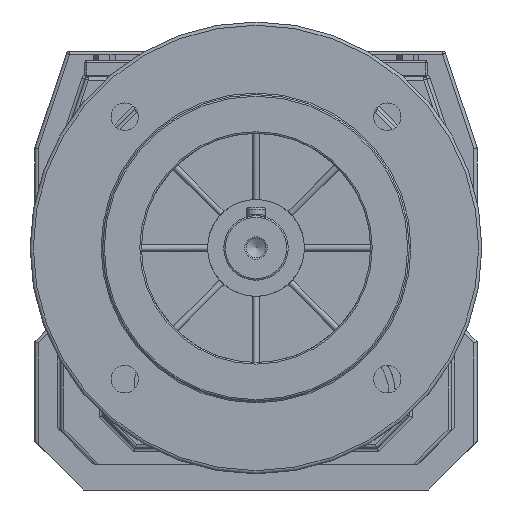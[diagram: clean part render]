
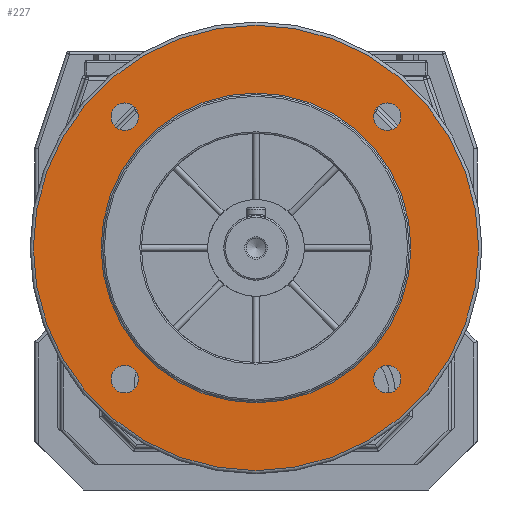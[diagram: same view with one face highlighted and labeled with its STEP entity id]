
A CAD part, front view. The second image highlights one B-rep face of the part: STEP entity #227.
In plain terms, the highlighted planar face has unit normal (0, -1, 0).
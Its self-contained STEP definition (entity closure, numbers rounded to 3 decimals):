
#132=CARTESIAN_POINT('',(0.,-73.,123.0));
#133=VERTEX_POINT('',#132);
#134=CARTESIAN_POINT('',(0.0,-73.,75.0));
#135=DIRECTION('',(0.0,-1.0,0.0));
#136=DIRECTION('',(0.0,0.0,-1.0));
#137=AXIS2_PLACEMENT_3D('',#134,#135,#136);
#138=CIRCLE('',#137,48.0);
#139=EDGE_CURVE('',#133,#133,#138,.T.);
#164=CARTESIAN_POINT('',(0.0,-73.,133.75));
#165=DIRECTION('',(0.0,-1.0,0.0));
#166=DIRECTION('',(0.0,0.0,-1.0));
#167=AXIS2_PLACEMENT_3D('',#164,#165,#166);
#168=PLANE('',#167);
#169=CARTESIAN_POINT('',(0.0,-73.,144.0));
#170=VERTEX_POINT('',#169);
#171=CARTESIAN_POINT('',(0.0,-73.,75.0));
#172=DIRECTION('',(0.0,1.0,0.0));
#173=DIRECTION('',(0.0,0.0,-1.0));
#174=AXIS2_PLACEMENT_3D('',#171,#172,#173);
#175=CIRCLE('',#174,69.0);
#176=EDGE_CURVE('',#170,#170,#175,.T.);
#177=ORIENTED_EDGE('',*,*,#176,.F.);
#178=EDGE_LOOP('',(#177));
#179=FACE_OUTER_BOUND('',#178,.T.);
#180=CARTESIAN_POINT('',(44.909,-73.,115.659));
#181=VERTEX_POINT('',#180);
#182=CARTESIAN_POINT('',(40.659,-73.,115.659));
#183=DIRECTION('',(0.0,1.0,0.0));
#184=DIRECTION('',(1.0,0.0,0.0));
#185=AXIS2_PLACEMENT_3D('',#182,#183,#184);
#186=CIRCLE('',#185,4.25);
#187=EDGE_CURVE('',#181,#181,#186,.T.);
#188=ORIENTED_EDGE('',*,*,#187,.T.);
#189=EDGE_LOOP('',(#188));
#190=FACE_BOUND('',#189,.T.);
#191=CARTESIAN_POINT('',(44.909,-73.,34.341));
#192=VERTEX_POINT('',#191);
#193=CARTESIAN_POINT('',(40.659,-73.,34.341));
#194=DIRECTION('',(0.0,1.0,0.0));
#195=DIRECTION('',(1.0,0.0,0.0));
#196=AXIS2_PLACEMENT_3D('',#193,#194,#195);
#197=CIRCLE('',#196,4.25);
#198=EDGE_CURVE('',#192,#192,#197,.T.);
#199=ORIENTED_EDGE('',*,*,#198,.T.);
#200=EDGE_LOOP('',(#199));
#201=FACE_BOUND('',#200,.T.);
#202=CARTESIAN_POINT('',(-36.409,-73.,34.341));
#203=VERTEX_POINT('',#202);
#204=CARTESIAN_POINT('',(-40.659,-73.,34.341));
#205=DIRECTION('',(0.0,1.0,0.0));
#206=DIRECTION('',(1.0,0.0,0.0));
#207=AXIS2_PLACEMENT_3D('',#204,#205,#206);
#208=CIRCLE('',#207,4.25);
#209=EDGE_CURVE('',#203,#203,#208,.T.);
#210=ORIENTED_EDGE('',*,*,#209,.T.);
#211=EDGE_LOOP('',(#210));
#212=FACE_BOUND('',#211,.T.);
#213=CARTESIAN_POINT('',(-36.409,-73.,115.659));
#214=VERTEX_POINT('',#213);
#215=CARTESIAN_POINT('',(-40.659,-73.,115.659));
#216=DIRECTION('',(0.0,1.0,0.0));
#217=DIRECTION('',(1.0,0.0,0.0));
#218=AXIS2_PLACEMENT_3D('',#215,#216,#217);
#219=CIRCLE('',#218,4.25);
#220=EDGE_CURVE('',#214,#214,#219,.T.);
#221=ORIENTED_EDGE('',*,*,#220,.T.);
#222=EDGE_LOOP('',(#221));
#223=FACE_BOUND('',#222,.T.);
#224=ORIENTED_EDGE('',*,*,#139,.F.);
#225=EDGE_LOOP('',(#224));
#226=FACE_BOUND('',#225,.T.);
#227=ADVANCED_FACE('',(#179,#190,#201,#212,#223,#226),#168,.T.);
